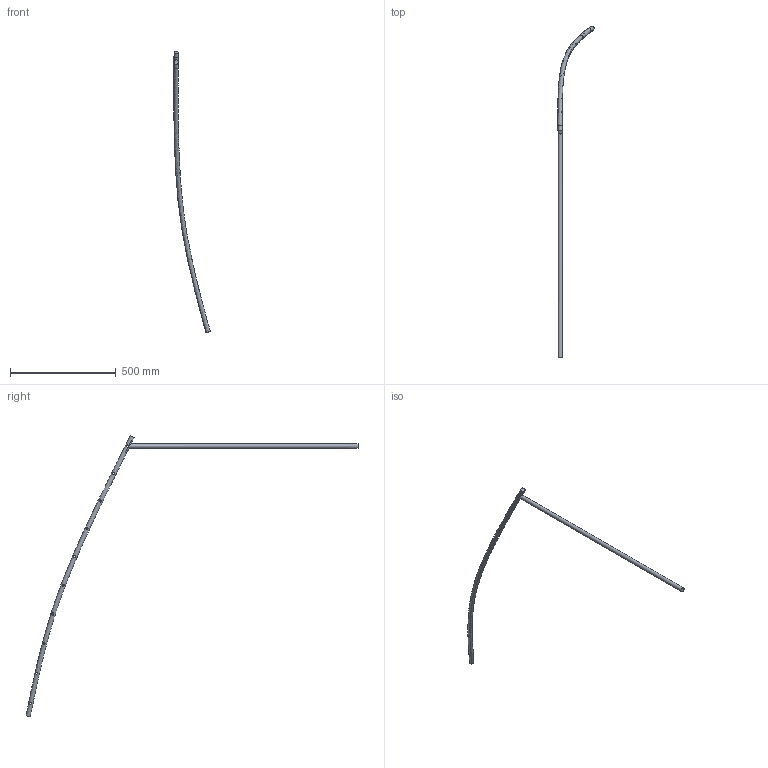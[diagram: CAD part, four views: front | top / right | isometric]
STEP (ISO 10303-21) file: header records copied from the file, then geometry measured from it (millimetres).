
FILE_DESCRIPTION(/* description */ ('Alibre Inc.'),/* implementation_level */ '2;1');
FILE_NAME(/* name */ 'export0',/* time_stamp */ '2007-06-06T16:45:39+02:00',/* author */ (''),/* organization */ (''),/* preprocessor_version */ 'ST-DEVELOPER v10',/* originating_system */ 'Alibre',/* authorisation */ '');
FILE_SCHEMA (('ALIBRE_SCHEMA','CONFIG_CONTROL_DESIGN'));
Length unit declared in the file: centimetre
Products named in the file (1): ID_1
Bounding box: 171.52 x 1570.26 x 1327.79 mm (x, y, z)
Volume: 854242.1 mm3; surface area: 171312 mm2
Topology: 1 solids, 1 shells, 24 faces, 101 edges, 68 vertices
Faces by surface type: cylinder 14, plane 9, bspline 1
Full cylindrical faces by diameter (mm): 10 x1, 10.01 x9, 21 x2
Entity records: 4550 total; most frequent: CARTESIAN_POINT 1889, PERSISTANTTOPOLOGYATTRIBUTE 463, DIRECTION 153, ORIENTED_EDGE 150, CONSTRAINTPAIRUV 127, REFERENCEDEPENDENTUV 99, REFERENCEPOINTUV 87, VECTOR 76
